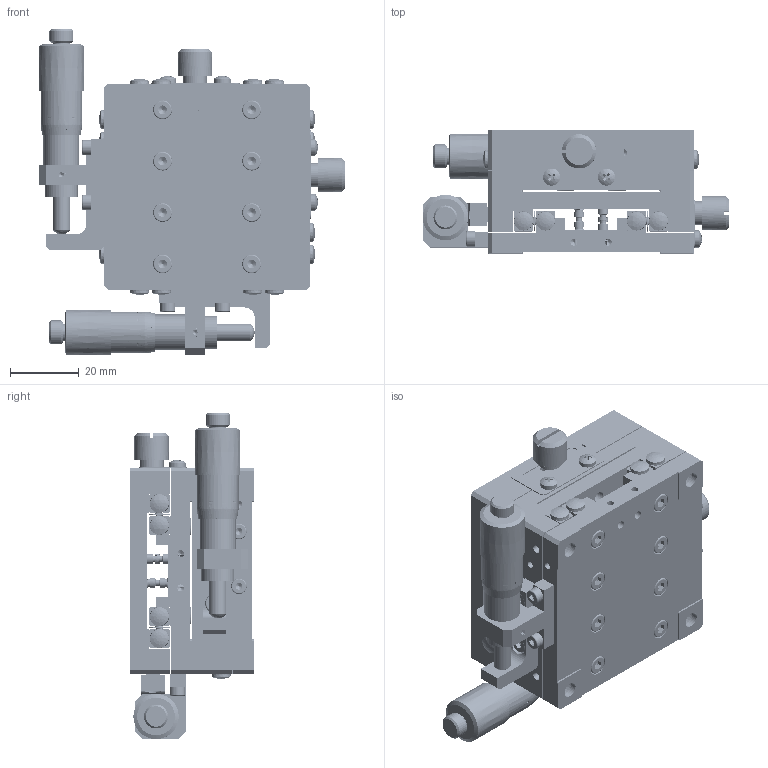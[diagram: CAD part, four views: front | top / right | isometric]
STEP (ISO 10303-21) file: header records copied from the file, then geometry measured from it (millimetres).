
FILE_DESCRIPTION (( 'STEP AP203' ), '1' );
FILE_NAME ('BPTB60.STEP', '2024-07-24T12:46:37', ( 'Windows User' ), ( 'P R C' ), 'SwSTEP 2.0', 'SolidWorks 2024', '' );
FILE_SCHEMA (( 'CONFIG_CONTROL_DESIGN' ));
Products named in the file (1): BPTB60
Bounding box: 89.4 x 36 x 95.2 mm (x, y, z)
Volume: 119680.6 mm3; surface area: 85827.7 mm2
Topology: 82 solids, 82 shells, 3890 faces, 9614 edges, 6174 vertices
Faces by surface type: plane 1778, bspline 822, cylinder 728, cone 500, torus 56, sphere 6
Full cylindrical faces by diameter (mm): 1.8 x8, 2 x44, 2.05 x34, 2.4 x8, 2.5 x38, 2.55 x32, 2.95 x18, 3 x58, 3.1 x4, 3.2 x4, 3.3 x18, 3.4 x32, 4.4 x32, 4.5 x12, 5 x10, 5.5 x36, 5.8 x4, 6 x32, 7 x4, 8 x8, 8.5 x2, 9.5 x4, 10 x2, 10.5 x2, 12.2 x2
Entity records: 177741 total; most frequent: CARTESIAN_POINT 97873, ORIENTED_EDGE 16996, DIRECTION 13284, EDGE_CURVE 8498, VERTEX_POINT 5888, EDGE_LOOP 5426, AXIS2_PLACEMENT_3D 4963, FACE_OUTER_BOUND 4364
